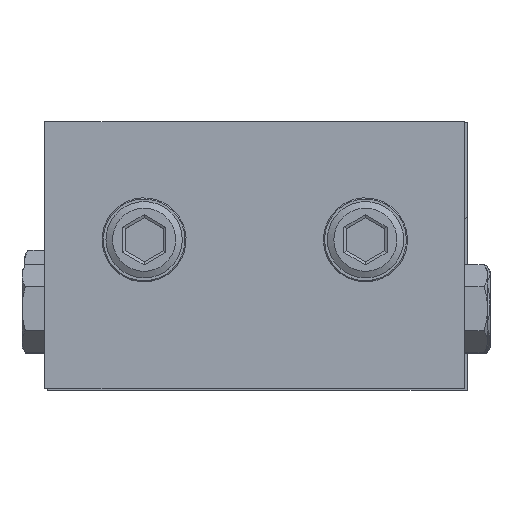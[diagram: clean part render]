
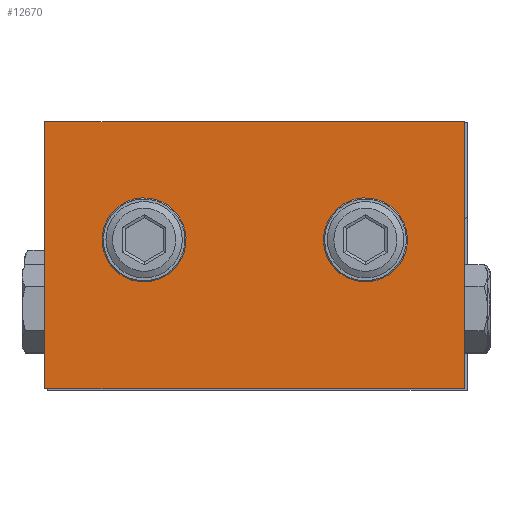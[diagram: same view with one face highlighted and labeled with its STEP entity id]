
A CAD part, top view. The second image highlights one B-rep face of the part: STEP entity #12670.
In plain terms, the highlighted planar face has unit normal (0, 0, 1) as drawn and (0, 0, -1) by its records, which use the part's own axes.
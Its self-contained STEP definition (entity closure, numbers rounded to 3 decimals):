
#662 = EDGE_CURVE ( 'NONE', #18061, #18061, #27622, .T. ) ;
#1471 = CARTESIAN_POINT ( 'NONE',  ( 11.4, -15.5, -4.85 ) ) ;
#1886 = CARTESIAN_POINT ( 'NONE',  ( -14.5, -15.5, -4.85 ) ) ;
#2031 = ORIENTED_EDGE ( 'NONE', *, *, #18870, .F. ) ;
#2194 = VERTEX_POINT ( 'NONE', #29334 ) ;
#3149 = AXIS2_PLACEMENT_3D ( 'NONE', #1886, #22879, #20455 ) ;
#5015 = CARTESIAN_POINT ( 'NONE',  ( 27.5, 0., -4.85 ) ) ;
#5123 = DIRECTION ( 'NONE',  ( 0., -1., 0. ) ) ;
#5289 = AXIS2_PLACEMENT_3D ( 'NONE', #8893, #18174, #27423 ) ;
#5626 = CARTESIAN_POINT ( 'NONE',  ( 0., 0., -4.85 ) ) ;
#6742 = PLANE ( 'NONE',  #26475 ) ;
#6789 = EDGE_CURVE ( 'NONE', #22457, #2194, #25835, .T. ) ;
#7769 = LINE ( 'NONE', #5626, #27150 ) ;
#8254 = VECTOR ( 'NONE', #5123, 1000. ) ;
#8893 = CARTESIAN_POINT ( 'NONE',  ( 14.5, -15.5, -4.85 ) ) ;
#9469 = FACE_BOUND ( 'NONE', #28879, .T. ) ;
#9777 = VECTOR ( 'NONE', #23411, 1000. ) ;
#11302 = FACE_OUTER_BOUND ( 'NONE', #11752, .T. ) ;
#11724 = VECTOR ( 'NONE', #23553, 1000. ) ;
#11752 = EDGE_LOOP ( 'NONE', ( #13171, #2031, #15260, #22321 ) ) ;
#11777 = ORIENTED_EDGE ( 'NONE', *, *, #15737, .F. ) ;
#12670 = ADVANCED_FACE ( 'NONE', ( #11302, #22871, #9469 ), #6742, .F. ) ;
#13171 = ORIENTED_EDGE ( 'NONE', *, *, #20714, .F. ) ;
#13435 = DIRECTION ( 'NONE',  ( 1., 0., 0. ) ) ;
#13988 = LINE ( 'NONE', #18709, #9777 ) ;
#14345 = CARTESIAN_POINT ( 'NONE',  ( -11.4, -15.5, -4.85 ) ) ;
#15260 = ORIENTED_EDGE ( 'NONE', *, *, #6789, .F. ) ;
#15376 = CARTESIAN_POINT ( 'NONE',  ( 27.5, -35., -4.85 ) ) ;
#15737 = EDGE_CURVE ( 'NONE', #28182, #28182, #19691, .T. ) ;
#16231 = EDGE_LOOP ( 'NONE', ( #28522 ) ) ;
#16871 = CARTESIAN_POINT ( 'NONE',  ( -27.5, 0., -4.85 ) ) ;
#17292 = LINE ( 'NONE', #25942, #8254 ) ;
#18061 = VERTEX_POINT ( 'NONE', #1471 ) ;
#18174 = DIRECTION ( 'NONE',  ( 0., 0., -1. ) ) ;
#18277 = CARTESIAN_POINT ( 'NONE',  ( -27.5, -35., -4.85 ) ) ;
#18709 = CARTESIAN_POINT ( 'NONE',  ( 0., -35., -4.85 ) ) ;
#18751 = CARTESIAN_POINT ( 'NONE',  ( 0., 0., -4.85 ) ) ;
#18870 = EDGE_CURVE ( 'NONE', #2194, #25328, #7769, .T. ) ;
#19691 = CIRCLE ( 'NONE', #3149, 3.1 ) ;
#20349 = VERTEX_POINT ( 'NONE', #18277 ) ;
#20455 = DIRECTION ( 'NONE',  ( 1., 0., 0. ) ) ;
#20714 = EDGE_CURVE ( 'NONE', #25328, #20349, #17292, .T. ) ;
#21600 = DIRECTION ( 'NONE',  ( -1., 0., 0. ) ) ;
#22321 = ORIENTED_EDGE ( 'NONE', *, *, #23319, .F. ) ;
#22457 = VERTEX_POINT ( 'NONE', #15376 ) ;
#22871 = FACE_BOUND ( 'NONE', #16231, .T. ) ;
#22879 = DIRECTION ( 'NONE',  ( 0., 0., -1. ) ) ;
#23319 = EDGE_CURVE ( 'NONE', #20349, #22457, #13988, .T. ) ;
#23411 = DIRECTION ( 'NONE',  ( 1., 0., 0. ) ) ;
#23553 = DIRECTION ( 'NONE',  ( 0., 1., 0. ) ) ;
#24994 = DIRECTION ( 'NONE',  ( 0., 0., 1. ) ) ;
#25328 = VERTEX_POINT ( 'NONE', #16871 ) ;
#25835 = LINE ( 'NONE', #5015, #11724 ) ;
#25942 = CARTESIAN_POINT ( 'NONE',  ( -27.5, 0., -4.85 ) ) ;
#26475 = AXIS2_PLACEMENT_3D ( 'NONE', #18751, #24994, #13435 ) ;
#27150 = VECTOR ( 'NONE', #21600, 1000. ) ;
#27423 = DIRECTION ( 'NONE',  ( -1., 0., 0. ) ) ;
#27622 = CIRCLE ( 'NONE', #5289, 3.1 ) ;
#28182 = VERTEX_POINT ( 'NONE', #14345 ) ;
#28522 = ORIENTED_EDGE ( 'NONE', *, *, #662, .F. ) ;
#28879 = EDGE_LOOP ( 'NONE', ( #11777 ) ) ;
#29334 = CARTESIAN_POINT ( 'NONE',  ( 27.5, 0., -4.85 ) ) ;
